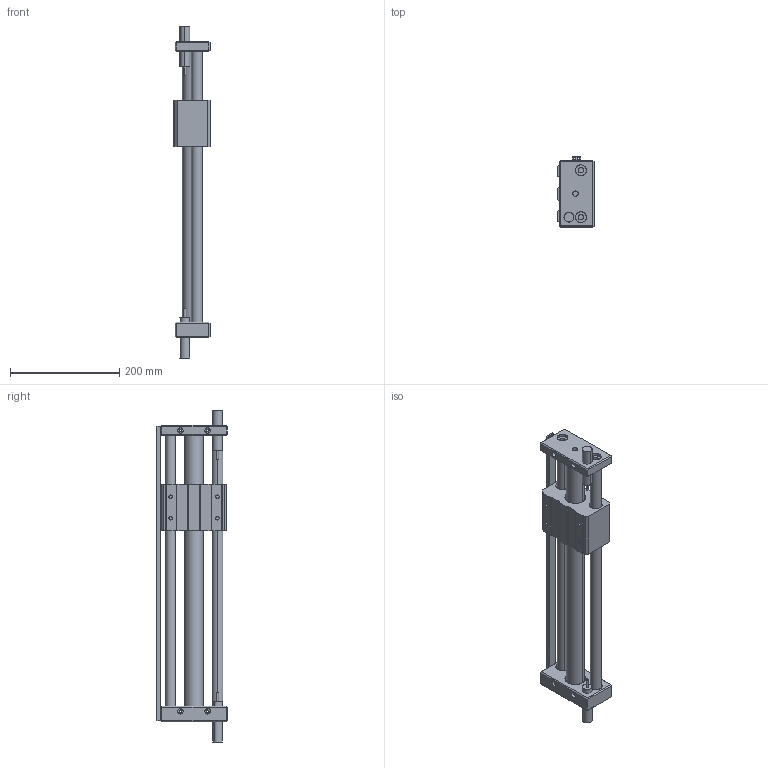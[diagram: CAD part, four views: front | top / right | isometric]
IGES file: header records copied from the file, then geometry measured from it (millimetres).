
Start section: SolidWorks IGES file using analytic representation for surfaces
Global section: file name: D:\Documents de SGA\Pieces 2D et 3D\GRU\iges\GRU 32.400.IGS; native system: SolidWorks 2010; preprocessor: SolidWorks 2010; author: SGA; date: 111216.134130; units: millimetre
Bounding box: 66 x 129.37 x 608.57 mm (x, y, z)
Surface area: 285564.7 mm2 (no closed solid volume)
Topology: 0 solids, 0 shells, 246 faces, 3800 edges, 3800 vertices
Faces by surface type: bspline 126, revolution 120
